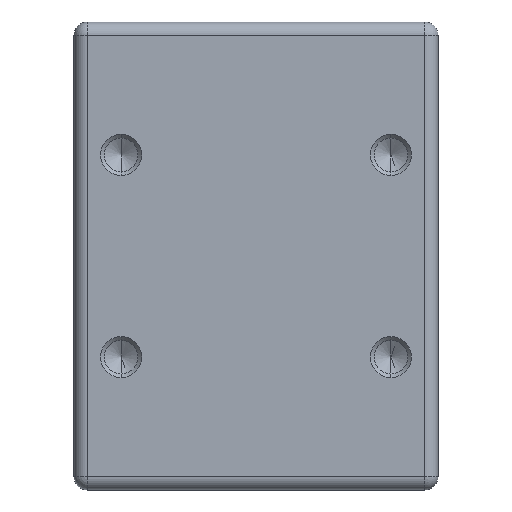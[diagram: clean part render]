
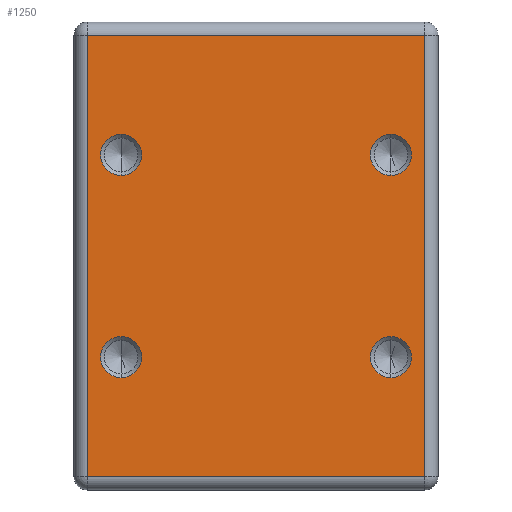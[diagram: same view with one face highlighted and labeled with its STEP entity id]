
A CAD part, left-side view. The second image highlights one B-rep face of the part: STEP entity #1250.
In plain terms, the highlighted planar face has unit normal (-1, 0, 0).
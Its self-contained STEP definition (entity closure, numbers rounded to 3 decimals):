
#2 = DIRECTION ( 'NONE',  ( -1., 0., 0. ) ) ;
#8 = CARTESIAN_POINT ( 'NONE',  ( -5., -10., 24.85 ) ) ;
#25 = EDGE_LOOP ( 'NONE', ( #1920, #770 ) ) ;
#45 = VERTEX_POINT ( 'NONE', #463 ) ;
#67 = LINE ( 'NONE', #1111, #109 ) ;
#77 = CIRCLE ( 'NONE', #425, 1.525 ) ;
#86 = LINE ( 'NONE', #685, #1093 ) ;
#93 = CARTESIAN_POINT ( 'NONE',  ( -5., 10., 11.375 ) ) ;
#109 = VECTOR ( 'NONE', #218, 1000. ) ;
#155 = VERTEX_POINT ( 'NONE', #1192 ) ;
#171 = CARTESIAN_POINT ( 'NONE',  ( -5., 10., 24.85 ) ) ;
#183 = CARTESIAN_POINT ( 'NONE',  ( -5., -10., 23.325 ) ) ;
#192 = VECTOR ( 'NONE', #384, 1000. ) ;
#208 = CARTESIAN_POINT ( 'NONE',  ( -5., 10., 9.85 ) ) ;
#218 = DIRECTION ( 'NONE',  ( 0., -1., 0. ) ) ;
#219 = VERTEX_POINT ( 'NONE', #1426 ) ;
#245 = VERTEX_POINT ( 'NONE', #183 ) ;
#263 = FACE_OUTER_BOUND ( 'NONE', #1683, .T. ) ;
#356 = CARTESIAN_POINT ( 'NONE',  ( -5., 10., 8.325 ) ) ;
#382 = DIRECTION ( 'NONE',  ( 0., 0., 1. ) ) ;
#384 = DIRECTION ( 'NONE',  ( 0., 0., -1. ) ) ;
#396 = CIRCLE ( 'NONE', #614, 1.525 ) ;
#405 = CARTESIAN_POINT ( 'NONE',  ( -5., 10., 23.325 ) ) ;
#421 = ORIENTED_EDGE ( 'NONE', *, *, #1705, .F. ) ;
#425 = AXIS2_PLACEMENT_3D ( 'NONE', #1017, #705, #382 ) ;
#463 = CARTESIAN_POINT ( 'NONE',  ( -5., 10., 26.375 ) ) ;
#473 = ORIENTED_EDGE ( 'NONE', *, *, #599, .T. ) ;
#511 = EDGE_CURVE ( 'NONE', #45, #757, #1732, .T. ) ;
#523 = DIRECTION ( 'NONE',  ( 0., 0., 1. ) ) ;
#536 = CARTESIAN_POINT ( 'NONE',  ( -5., -10., 9.85 ) ) ;
#553 = FACE_BOUND ( 'NONE', #949, .T. ) ;
#564 = CARTESIAN_POINT ( 'NONE',  ( -5., 13.5, 34.7 ) ) ;
#574 = DIRECTION ( 'NONE',  ( 0., 0., 1. ) ) ;
#582 = AXIS2_PLACEMENT_3D ( 'NONE', #1409, #1719, #654 ) ;
#599 = EDGE_CURVE ( 'NONE', #1316, #1214, #1443, .T. ) ;
#614 = AXIS2_PLACEMENT_3D ( 'NONE', #694, #845, #1446 ) ;
#645 = AXIS2_PLACEMENT_3D ( 'NONE', #941, #1397, #523 ) ;
#654 = DIRECTION ( 'NONE',  ( 0., 0., 1. ) ) ;
#685 = CARTESIAN_POINT ( 'NONE',  ( -5., 13.5, 33.7 ) ) ;
#688 = AXIS2_PLACEMENT_3D ( 'NONE', #536, #1186, #1921 ) ;
#694 = CARTESIAN_POINT ( 'NONE',  ( -5., -10., 9.85 ) ) ;
#699 = EDGE_CURVE ( 'NONE', #704, #1918, #1931, .T. ) ;
#704 = VERTEX_POINT ( 'NONE', #1337 ) ;
#705 = DIRECTION ( 'NONE',  ( -1., 0., 0. ) ) ;
#721 = CIRCLE ( 'NONE', #1829, 1.525 ) ;
#725 = EDGE_CURVE ( 'NONE', #1858, #219, #1196, .T. ) ;
#757 = VERTEX_POINT ( 'NONE', #405 ) ;
#758 = VECTOR ( 'NONE', #574, 1000. ) ;
#770 = ORIENTED_EDGE ( 'NONE', *, *, #1079, .F. ) ;
#807 = AXIS2_PLACEMENT_3D ( 'NONE', #208, #820, #1422 ) ;
#820 = DIRECTION ( 'NONE',  ( -1., 0., 0. ) ) ;
#845 = DIRECTION ( 'NONE',  ( -1., 0., 0. ) ) ;
#885 = EDGE_CURVE ( 'NONE', #245, #155, #721, .T. ) ;
#916 = AXIS2_PLACEMENT_3D ( 'NONE', #171, #2, #1677 ) ;
#917 = ORIENTED_EDGE ( 'NONE', *, *, #1925, .F. ) ;
#940 = ORIENTED_EDGE ( 'NONE', *, *, #699, .T. ) ;
#941 = CARTESIAN_POINT ( 'NONE',  ( -5., 10., 24.85 ) ) ;
#949 = EDGE_LOOP ( 'NONE', ( #917, #1567 ) ) ;
#950 = ORIENTED_EDGE ( 'NONE', *, *, #1263, .T. ) ;
#964 = CIRCLE ( 'NONE', #645, 1.525 ) ;
#967 = CIRCLE ( 'NONE', #582, 1.525 ) ;
#1017 = CARTESIAN_POINT ( 'NONE',  ( -5., 10., 9.85 ) ) ;
#1037 = ORIENTED_EDGE ( 'NONE', *, *, #1184, .F. ) ;
#1050 = DIRECTION ( 'NONE',  ( 0., 0., 1. ) ) ;
#1079 = EDGE_CURVE ( 'NONE', #757, #45, #964, .T. ) ;
#1090 = EDGE_CURVE ( 'NONE', #1214, #704, #67, .T. ) ;
#1093 = VECTOR ( 'NONE', #1164, 1000. ) ;
#1095 = EDGE_CURVE ( 'NONE', #1154, #1713, #1783, .T. ) ;
#1111 = CARTESIAN_POINT ( 'NONE',  ( -5., -13.5, 1. ) ) ;
#1154 = VERTEX_POINT ( 'NONE', #356 ) ;
#1155 = CARTESIAN_POINT ( 'NONE',  ( -5., -12.5, 34.7 ) ) ;
#1164 = DIRECTION ( 'NONE',  ( 0., 1., 0. ) ) ;
#1175 = DIRECTION ( 'NONE',  ( 1., 0., 0. ) ) ;
#1182 = DIRECTION ( 'NONE',  ( 0., 1., 0. ) ) ;
#1184 = EDGE_CURVE ( 'NONE', #1713, #1154, #77, .T. ) ;
#1186 = DIRECTION ( 'NONE',  ( -1., 0., 0. ) ) ;
#1192 = CARTESIAN_POINT ( 'NONE',  ( -5., -10., 26.375 ) ) ;
#1196 = CIRCLE ( 'NONE', #688, 1.525 ) ;
#1214 = VERTEX_POINT ( 'NONE', #1608 ) ;
#1250 = ADVANCED_FACE ( 'NONE', ( #1317, #1919, #553, #1295, #263 ), #1473, .F. ) ;
#1263 = EDGE_CURVE ( 'NONE', #1918, #1316, #86, .T. ) ;
#1295 = FACE_BOUND ( 'NONE', #1537, .T. ) ;
#1316 = VERTEX_POINT ( 'NONE', #1382 ) ;
#1317 = FACE_BOUND ( 'NONE', #1838, .T. ) ;
#1337 = CARTESIAN_POINT ( 'NONE',  ( -5., -12.5, 1. ) ) ;
#1382 = CARTESIAN_POINT ( 'NONE',  ( -5., 12.5, 33.7 ) ) ;
#1397 = DIRECTION ( 'NONE',  ( -1., 0., 0. ) ) ;
#1409 = CARTESIAN_POINT ( 'NONE',  ( -5., -10., 24.85 ) ) ;
#1422 = DIRECTION ( 'NONE',  ( 0., 0., 1. ) ) ;
#1426 = CARTESIAN_POINT ( 'NONE',  ( -5., -10., 8.325 ) ) ;
#1435 = ORIENTED_EDGE ( 'NONE', *, *, #725, .F. ) ;
#1440 = ORIENTED_EDGE ( 'NONE', *, *, #1095, .F. ) ;
#1443 = LINE ( 'NONE', #1589, #192 ) ;
#1446 = DIRECTION ( 'NONE',  ( 0., 0., 1. ) ) ;
#1473 = PLANE ( 'NONE',  #1591 ) ;
#1523 = CARTESIAN_POINT ( 'NONE',  ( -5., -10., 11.375 ) ) ;
#1537 = EDGE_LOOP ( 'NONE', ( #1435, #421 ) ) ;
#1567 = ORIENTED_EDGE ( 'NONE', *, *, #885, .F. ) ;
#1589 = CARTESIAN_POINT ( 'NONE',  ( -5., 12.5, 34.7 ) ) ;
#1590 = CARTESIAN_POINT ( 'NONE',  ( -5., -12.5, 33.7 ) ) ;
#1591 = AXIS2_PLACEMENT_3D ( 'NONE', #564, #1175, #1182 ) ;
#1608 = CARTESIAN_POINT ( 'NONE',  ( -5., 12.5, 1. ) ) ;
#1677 = DIRECTION ( 'NONE',  ( 0., 0., 1. ) ) ;
#1683 = EDGE_LOOP ( 'NONE', ( #1815, #940, #950, #473 ) ) ;
#1705 = EDGE_CURVE ( 'NONE', #219, #1858, #396, .T. ) ;
#1713 = VERTEX_POINT ( 'NONE', #93 ) ;
#1719 = DIRECTION ( 'NONE',  ( -1., 0., 0. ) ) ;
#1732 = CIRCLE ( 'NONE', #916, 1.525 ) ;
#1783 = CIRCLE ( 'NONE', #807, 1.525 ) ;
#1815 = ORIENTED_EDGE ( 'NONE', *, *, #1090, .T. ) ;
#1829 = AXIS2_PLACEMENT_3D ( 'NONE', #8, #1840, #1050 ) ;
#1838 = EDGE_LOOP ( 'NONE', ( #1037, #1440 ) ) ;
#1840 = DIRECTION ( 'NONE',  ( -1., 0., 0. ) ) ;
#1858 = VERTEX_POINT ( 'NONE', #1523 ) ;
#1918 = VERTEX_POINT ( 'NONE', #1590 ) ;
#1919 = FACE_BOUND ( 'NONE', #25, .T. ) ;
#1920 = ORIENTED_EDGE ( 'NONE', *, *, #511, .F. ) ;
#1921 = DIRECTION ( 'NONE',  ( 0., 0., 1. ) ) ;
#1925 = EDGE_CURVE ( 'NONE', #155, #245, #967, .T. ) ;
#1931 = LINE ( 'NONE', #1155, #758 ) ;
